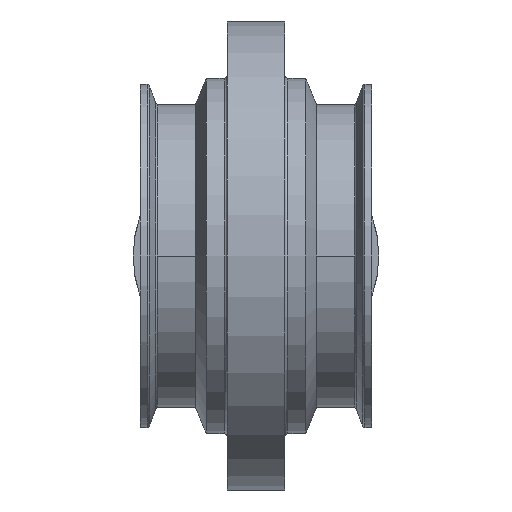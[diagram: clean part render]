
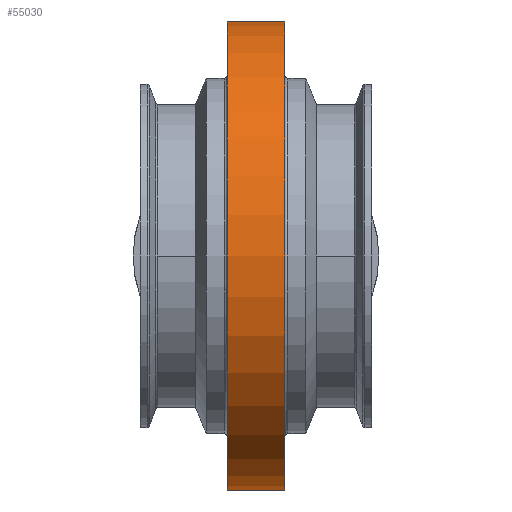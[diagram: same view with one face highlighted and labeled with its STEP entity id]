
A CAD part, front view. The second image highlights one B-rep face of the part: STEP entity #55030.
In plain terms, the highlighted cylindrical face has radius 81 mm (diameter 162 mm), a partial arc.
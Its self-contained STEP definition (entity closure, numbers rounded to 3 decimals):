
#8070=CARTESIAN_POINT('',(112.024,-39.808,0.));
#8080=DIRECTION('',(1.,0.,0.));
#8090=DIRECTION('',(0.,1.,0.));
#8100=AXIS2_PLACEMENT_3D('',#8070,#8080,#8090);
#8110=CIRCLE('',#8100,81.);
#8120=CARTESIAN_POINT('',(112.024,41.192,0.));
#8130=VERTEX_POINT('',#8120);
#8160=CARTESIAN_POINT('',(112.024,-120.808,
0.));
#8170=VERTEX_POINT('',#8160);
#8180=EDGE_CURVE('',#8170,#8130,#8110,.T.);
#10320=CARTESIAN_POINT('',(107.024,-39.808,0.));
#10330=DIRECTION('',(-1.,0.,0.));
#10340=DIRECTION('',(0.,1.,0.));
#10350=AXIS2_PLACEMENT_3D('',#10320,#10330,#10340);
#10360=CYLINDRICAL_SURFACE('',#10350,81.);
#10480=CARTESIAN_POINT('',(92.024,-39.808,0.));
#10490=DIRECTION('',(-1.,0.,0.));
#10500=DIRECTION('',(0.,1.,0.));
#10510=AXIS2_PLACEMENT_3D('',#10480,#10490,#10500);
#10520=CIRCLE('',#10510,81.);
#10530=CARTESIAN_POINT('',(92.024,41.192,0.));
#10540=VERTEX_POINT('',#10530);
#10570=CARTESIAN_POINT('',(107.024,41.192,0.));
#10580=DIRECTION('',(-1.,0.,0.));
#10590=VECTOR('',#10580,1.);
#10600=LINE('',#10570,#10590);
#10610=EDGE_CURVE('',#8130,#10540,#10600,.T.);
#17840=CARTESIAN_POINT('',(92.024,-120.808,
0.));
#17850=VERTEX_POINT('',#17840);
#17880=EDGE_CURVE('',#10540,#17850,#10520,.T.);
#54920=ORIENTED_EDGE('',*,*,#17880,.F.);
#54930=CARTESIAN_POINT('',(107.024,-120.808,
0.));
#54940=DIRECTION('',(-1.,0.,0.));
#54950=VECTOR('',#54940,1.);
#54960=LINE('',#54930,#54950);
#54970=EDGE_CURVE('',#8170,#17850,#54960,.T.);
#54980=ORIENTED_EDGE('',*,*,#54970,.T.);
#54990=ORIENTED_EDGE('',*,*,#8180,.F.);
#55000=ORIENTED_EDGE('',*,*,#10610,.F.);
#55010=EDGE_LOOP('',(#55000,#54990,#54980,#54920));
#55020=FACE_OUTER_BOUND('',#55010,.T.);
#55030=ADVANCED_FACE('',(#55020),#10360,.T.);
